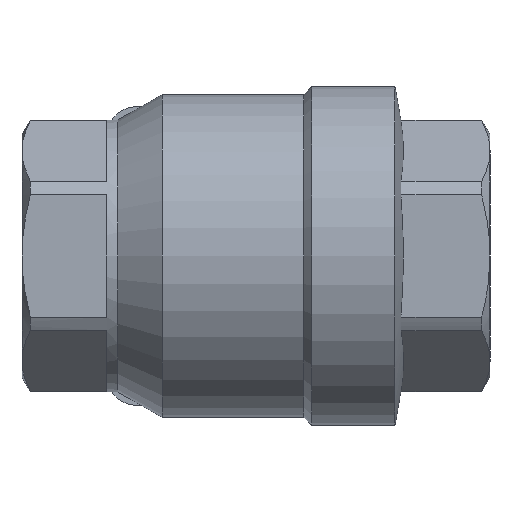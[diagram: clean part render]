
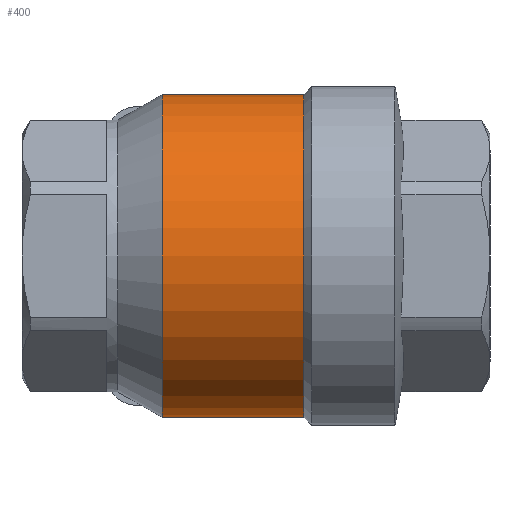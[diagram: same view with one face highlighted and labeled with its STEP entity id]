
A CAD part, front view. The second image highlights one B-rep face of the part: STEP entity #400.
In plain terms, the highlighted cylindrical face has radius 36.25 mm (diameter 72.5 mm), a partial arc.
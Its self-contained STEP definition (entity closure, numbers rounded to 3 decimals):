
#4 = ORIENTED_EDGE ( 'NONE', *, *, #2053, .F. ) ;
#58 = DIRECTION ( 'NONE',  ( -1., 0., 0. ) ) ;
#203 = EDGE_CURVE ( 'NONE', #1624, #2217, #1470, .T. ) ;
#311 = ORIENTED_EDGE ( 'NONE', *, *, #203, .F. ) ;
#400 = ADVANCED_FACE ( 'NONE', ( #3140 ), #2475, .T. ) ;
#408 = DIRECTION ( 'NONE',  ( -1., 0., 0. ) ) ;
#433 = EDGE_CURVE ( 'NONE', #1624, #3287, #3724, .T. ) ;
#590 = DIRECTION ( 'NONE',  ( -1., 0., 0. ) ) ;
#653 = AXIS2_PLACEMENT_3D ( 'NONE', #2139, #408, #2434 ) ;
#717 = VECTOR ( 'NONE', #590, 1000. ) ;
#817 = CARTESIAN_POINT ( 'NONE',  ( -55.019, 0., 0. ) ) ;
#1031 = VECTOR ( 'NONE', #3429, 1000. ) ;
#1071 = ORIENTED_EDGE ( 'NONE', *, *, #433, .T. ) ;
#1092 = CARTESIAN_POINT ( 'NONE',  ( -55.019, 0., -36.25 ) ) ;
#1202 = LINE ( 'NONE', #2271, #1031 ) ;
#1345 = ORIENTED_EDGE ( 'NONE', *, *, #1803, .T. ) ;
#1470 = LINE ( 'NONE', #1092, #717 ) ;
#1482 = DIRECTION ( 'NONE',  ( 0., 0., 1. ) ) ;
#1572 = DIRECTION ( 'NONE',  ( -1., 0., 0. ) ) ;
#1624 = VERTEX_POINT ( 'NONE', #2419 ) ;
#1650 = EDGE_LOOP ( 'NONE', ( #311, #1071, #1345, #4 ) ) ;
#1785 = CARTESIAN_POINT ( 'NONE',  ( -21., 0., 36.25 ) ) ;
#1803 = EDGE_CURVE ( 'NONE', #3287, #2719, #1202, .T. ) ;
#2009 = CARTESIAN_POINT ( 'NONE',  ( 10.75, 0., 0. ) ) ;
#2053 = EDGE_CURVE ( 'NONE', #2217, #2719, #3299, .T. ) ;
#2139 = CARTESIAN_POINT ( 'NONE',  ( -21., 0., 0. ) ) ;
#2217 = VERTEX_POINT ( 'NONE', #2961 ) ;
#2271 = CARTESIAN_POINT ( 'NONE',  ( -55.019, 0., 36.25 ) ) ;
#2297 = DIRECTION ( 'NONE',  ( 0., 0., 1. ) ) ;
#2419 = CARTESIAN_POINT ( 'NONE',  ( 10.75, 0., -36.25 ) ) ;
#2434 = DIRECTION ( 'NONE',  ( 0., 0., 1. ) ) ;
#2475 = CYLINDRICAL_SURFACE ( 'NONE', #3690, 36.25 ) ;
#2719 = VERTEX_POINT ( 'NONE', #1785 ) ;
#2961 = CARTESIAN_POINT ( 'NONE',  ( -21., 0., -36.25 ) ) ;
#3140 = FACE_OUTER_BOUND ( 'NONE', #1650, .T. ) ;
#3287 = VERTEX_POINT ( 'NONE', #3713 ) ;
#3299 = CIRCLE ( 'NONE', #653, 36.25 ) ;
#3323 = AXIS2_PLACEMENT_3D ( 'NONE', #2009, #1572, #1482 ) ;
#3429 = DIRECTION ( 'NONE',  ( -1., 0., 0. ) ) ;
#3690 = AXIS2_PLACEMENT_3D ( 'NONE', #817, #58, #2297 ) ;
#3713 = CARTESIAN_POINT ( 'NONE',  ( 10.75, 0., 36.25 ) ) ;
#3724 = CIRCLE ( 'NONE', #3323, 36.25 ) ;
